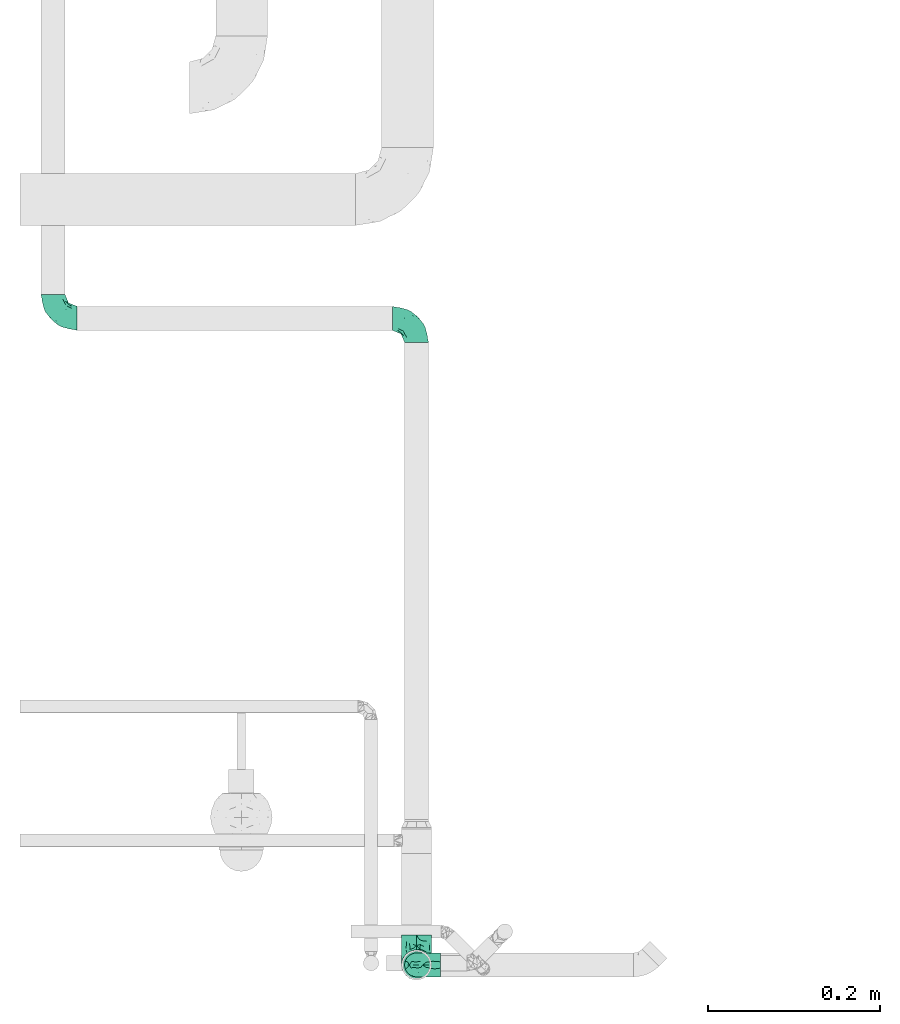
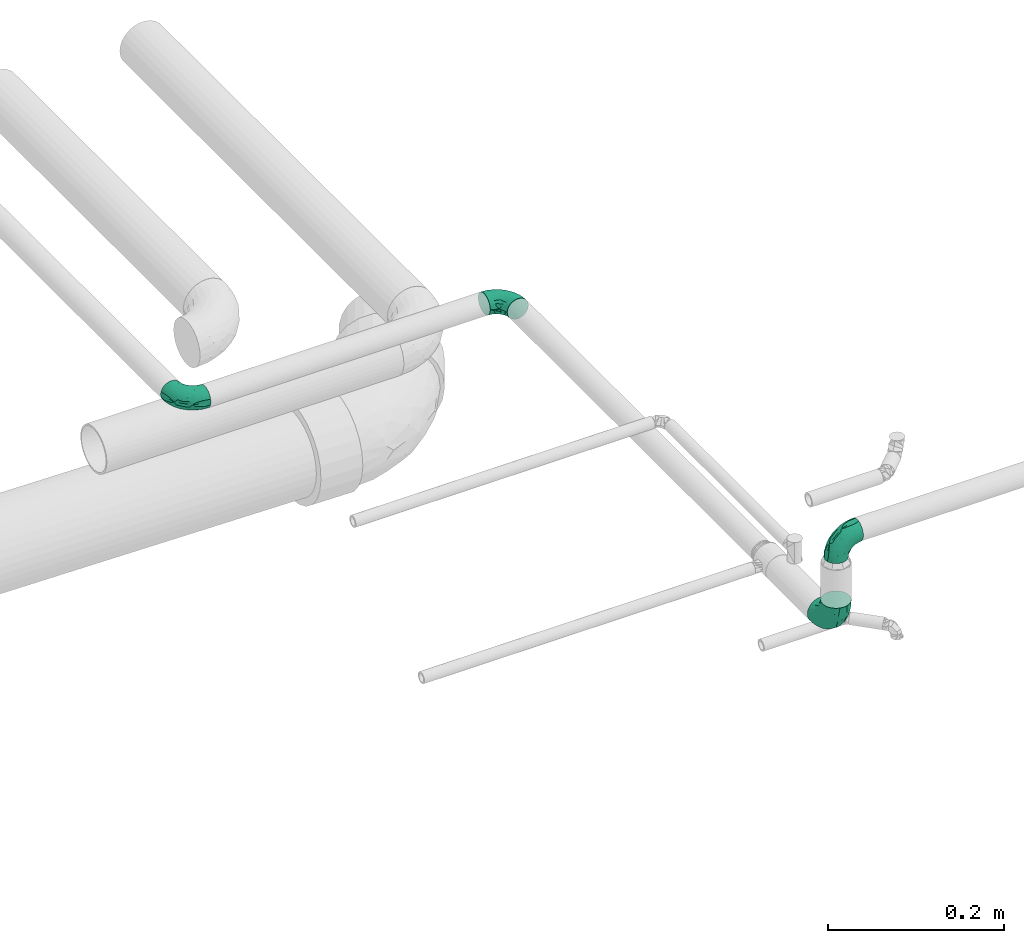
# One storey, part 14 of 35: 4 flow fittings.
"""IFC2X3 building model written with IfcOpenShell, lengths in millimetres."""

import ifcopenshell
import ifcopenshell.guid

model = None  # the IFC model being written
_history = None  # IfcOwnerHistory: only IFC2X3 demands one
_inside = {}  # id of a spatial element -> (the spatial element, [elements in it])
_under = {}  # id of a project, library or spatial element -> (it, [spatial elements below it])
_declared = {}  # id of a project -> (the project, [libraries it declares])
_typed = {}  # id of a type object -> (the type object, [elements of that type])
_made_of = {}  # id of a material, layer set ... -> (it, [elements and type objects made of it])


def new_model(schema):
    """Start an empty IFC model of exactly this schema.

    Asked for "IFC4X3", IfcOpenShell would pick the latest addendum, in which some entities
    have other attributes; the version numbers below select the first issue.
    IFC2X3 requires an IfcOwnerHistory on every rooted entity: one is made here for all.
    """
    global model, _history
    if schema == "IFC4X3":
        model = ifcopenshell.file(schema_version=(4, 3, 0, 0))
    else:
        model = ifcopenshell.file(schema=schema)
    _inside.clear()
    _under.clear()
    _declared.clear()
    _typed.clear()
    _made_of.clear()
    _history = None
    if model.schema == "IFC2X3":
        org = make("IfcOrganization", Name="unknown")
        user = make(
            "IfcPersonAndOrganization",
            ThePerson=make("IfcPerson", FamilyName="unknown"),
            TheOrganization=org,
        )
        app = make(
            "IfcApplication",
            ApplicationDeveloper=org,
            Version="unknown",
            ApplicationFullName="unknown",
            ApplicationIdentifier="unknown",
        )
        _history = make(
            "IfcOwnerHistory",
            OwningUser=user,
            OwningApplication=app,
            ChangeAction="ADDED",
            CreationDate=0,
        )
    return model


def make(cls, **values):
    """One entity of the class cls with the attributes given. An attribute that is None is left unset."""
    return model.create_entity(
        cls, **{name: value for name, value in values.items() if value is not None}
    )


def entity(cls, *values):
    """Any entity or typed value of the class cls, its attributes in the order of the schema. None: left unset."""
    e = model.create_entity(cls)
    for i, value in enumerate(values):
        if value is not None:
            e[i] = value
    return e


def rooted(cls, **values):
    """An entity with a GlobalId (a new one), such as an element, a storey or a relation."""
    return make(cls, GlobalId=ifcopenshell.guid.new(), OwnerHistory=_history, **values)


def si_unit(unit_type, name, prefix=None):
    """IfcSIUnit, for example si_unit("LENGTHUNIT", "METRE", prefix="MILLI")."""
    return make("IfcSIUnit", UnitType=unit_type, Prefix=prefix, Name=name)


def converted_unit(unit_type, name, factor, base, dimensions=None, offset=None):
    """IfcConversionBasedUnit, such as the inch: factor (a typed value) times the base unit."""
    return make(
        "IfcConversionBasedUnit"
        if offset is None
        else "IfcConversionBasedUnitWithOffset",
        ConversionOffset=offset,
        Dimensions=None
        if dimensions is None
        else entity("IfcDimensionalExponents", *dimensions),
        UnitType=unit_type,
        Name=name,
        ConversionFactor=make(
            "IfcMeasureWithUnit", ValueComponent=factor, UnitComponent=base
        ),
    )


def derived_unit(unit_type, elements):
    """IfcDerivedUnit: a product of units, each with its exponent."""
    return make(
        "IfcDerivedUnit",
        Elements=[
            make("IfcDerivedUnitElement", Unit=unit, Exponent=power)
            for unit, power in elements
        ],
        UnitType=unit_type,
    )


def assignment(units):
    """IfcUnitAssignment: the units of a project."""
    return None if units is None else make("IfcUnitAssignment", Units=units)


def point(xyz):
    """IfcCartesianPoint."""
    return None if xyz is None else make("IfcCartesianPoint", Coordinates=xyz)


def direction(xyz):
    """IfcDirection."""
    return None if xyz is None else make("IfcDirection", DirectionRatios=xyz)


def frame(location, z_axis=None, x_axis=None):
    """IfcAxis2Placement3D, a coordinate frame: its origin and axes. An axis left out is left unset."""
    return make(
        "IfcAxis2Placement3D",
        Location=point(location),
        Axis=direction(z_axis),
        RefDirection=direction(x_axis),
    )


def origin_with_axes():
    """The frame at (0, 0, 0) with the z axis (0, 0, 1) and the x axis (1, 0, 0) written out."""
    return frame((0.0, 0.0, 0.0), z_axis=(0.0, 0.0, 1.0), x_axis=(1.0, 0.0, 0.0))


def place(relative_to, where):
    """IfcLocalPlacement: puts the frame where relative to a parent placement (None: the world)."""
    return make(
        "IfcLocalPlacement", PlacementRelTo=relative_to, RelativePlacement=where
    )


def context(
    kind, dimensions, precision=None, world=None, true_north=None, identifier=None
):
    """IfcGeometricRepresentationContext, for example the 3D "Model" context."""
    return make(
        "IfcGeometricRepresentationContext",
        ContextIdentifier=identifier,
        ContextType=kind,
        CoordinateSpaceDimension=dimensions,
        Precision=precision,
        WorldCoordinateSystem=world,
        TrueNorth=true_north,
    )


def subcontext(parent, identifier, kind, view, scale=None):
    """IfcGeometricRepresentationSubContext, for example "Body" below "Model"."""
    return make(
        "IfcGeometricRepresentationSubContext",
        ContextIdentifier=identifier,
        ContextType=kind,
        ParentContext=parent,
        TargetScale=scale,
        TargetView=view,
    )


def project(units=None, contexts=None):
    """IfcProject with its units and contexts."""
    return rooted(
        "IfcProject",
        Name="project",
        RepresentationContexts=contexts,
        UnitsInContext=assignment(units),
    )


def spatial(cls, under=None, at=None, **own):
    """A site, building, storey or space (cls), placed at a placement, below another one or the project."""
    s = rooted(cls, ObjectPlacement=at, **own)
    if under is not None:
        _under.setdefault(under.id(), (under, []))[1].append(s)
    return s


def faces_of(points, faces, orient=None, outer=None):
    """IfcFace entities. A face is a list of loops; a loop is a list of indices into points, from 0.

    orient and outer hold one flag for each loop. By default every Orientation is true, the
    first loop of a face is its IfcFaceOuterBound and the others are IfcFaceBound.
    """
    made = []
    for i, loops in enumerate(faces):
        bounds = []
        for j, loop in enumerate(loops):
            is_outer = j == 0 if outer is None else outer[i][j]
            bounds.append(
                make(
                    "IfcFaceOuterBound" if is_outer else "IfcFaceBound",
                    Bound=make("IfcPolyLoop", Polygon=[points[k] for k in loop]),
                    Orientation=True if orient is None else orient[i][j],
                )
            )
        made.append(make("IfcFace", Bounds=bounds))
    return made


def open_shell(faces, orient=None, outer=None):
    """The faces of one IfcOpenShell. surface_model builds it on its shared points."""
    return ("IfcOpenShell", faces, orient, outer)


def surface_model(cls, points, shells):
    """IfcFaceBasedSurfaceModel or IfcShellBasedSurfaceModel (cls): surfaces that need not close."""
    shared = [point(p) for p in points]
    made = [make(c, CfsFaces=faces_of(shared, fs, o, b)) for c, fs, o, b in shells]
    if cls == "IfcFaceBasedSurfaceModel":
        return make(cls, FbsmFaces=made)
    return make(cls, SbsmBoundary=made)


def shape(context_of_items, identifier, shape_type, items):
    """IfcShapeRepresentation: the items that make up one representation, for example the "Body"."""
    return make(
        "IfcShapeRepresentation",
        ContextOfItems=context_of_items,
        RepresentationIdentifier=identifier,
        RepresentationType=shape_type,
        Items=items,
    )


def source(mapping_origin, context_of_items, identifier, shape_type, items):
    """IfcRepresentationMap: a shape defined once, which mapped items show again and again."""
    return make(
        "IfcRepresentationMap",
        MappingOrigin=mapping_origin,
        MappedRepresentation=shape(context_of_items, identifier, shape_type, items),
    )


def transform(
    local_origin,
    x_axis=None,
    y_axis=None,
    z_axis=None,
    scale=None,
    scale2=None,
    scale3=None,
    uniform=True,
):
    """IfcCartesianTransformationOperator3D, or its non-uniform kind. x_axis, y_axis, z_axis: its Axis1, 2, 3."""
    if uniform:
        return make(
            "IfcCartesianTransformationOperator3D",
            Axis1=direction(x_axis),
            Axis2=direction(y_axis),
            LocalOrigin=point(local_origin),
            Scale=scale,
            Axis3=direction(z_axis),
        )
    return make(
        "IfcCartesianTransformationOperator3DnonUniform",
        Axis1=direction(x_axis),
        Axis2=direction(y_axis),
        LocalOrigin=point(local_origin),
        Scale=scale,
        Axis3=direction(z_axis),
        Scale2=scale2,
        Scale3=scale3,
    )


def mapped(mapping_source, mapping_target):
    """IfcMappedItem: shows the shape of a source again, moved by a transform."""
    return make(
        "IfcMappedItem", MappingSource=mapping_source, MappingTarget=mapping_target
    )


def made_of(thing, what):
    """Note that an element or type object is made of a material, layer set ...; save() writes the relation."""
    if what is not None:
        _made_of.setdefault(what.id(), (what, []))[1].append(thing)
    return thing


def type_object(cls, material=None, **own):
    """A type object (cls), such as IfcWallType, which elements share."""
    return made_of(rooted(cls, **own), material)


def element(
    cls,
    number,
    at=None,
    inside=None,
    cuts=None,
    type_object=None,
    material=None,
    context=None,
    identifier="Body",
    shape_type=None,
    held_by="IfcProductDefinitionShape",
    body=None,
    shapes=None,
    **own,
):
    """One element of the class cls, such as IfcWall. Its Tag is "e" and its number.

    at: its placement. inside: the storey or other place that contains it. cuts: it is an
    opening in that element (IfcRelVoidsElement). A single representation is given by context,
    identifier, shape_type and body (its items); several are given by shapes. held_by: the class
    of the entity that holds the representations. save() writes the other relations.
    """
    e = rooted(cls, Tag="e%d" % number, ObjectPlacement=at, **own)
    if body is not None:
        shapes = [shape(context, identifier, shape_type, body)]
    if shapes is not None:
        e.Representation = make(held_by, Representations=shapes)
    if inside is not None:
        _inside.setdefault(inside.id(), (inside, []))[1].append(e)
    if cuts is not None:
        rooted(
            "IfcRelVoidsElement", RelatingBuildingElement=cuts, RelatedOpeningElement=e
        )
    if type_object is not None:
        _typed.setdefault(type_object.id(), (type_object, []))[1].append(e)
    return made_of(e, material)


def aggregate(whole, parts):
    """IfcRelAggregates: a whole, such as a stair, and the parts it consists of."""
    return rooted("IfcRelAggregates", RelatingObject=whole, RelatedObjects=parts)


def save(model, path):
    """Write the relations noted so far, then the file.

    IfcRelAggregates (storeys below a building ...), IfcRelContainedInSpatialStructure (elements
    in a storey), IfcRelDefinesByType, IfcRelAssociatesMaterial and IfcRelDeclares: one each for
    every whole, place, type object, material and project.
    """
    for whole, parts in _under.values():
        aggregate(whole, parts)
    for where, things in _inside.values():
        rooted(
            "IfcRelContainedInSpatialStructure",
            RelatedElements=things,
            RelatingStructure=where,
        )
    for kind, things in _typed.values():
        rooted("IfcRelDefinesByType", RelatedObjects=things, RelatingType=kind)
    for what, things in _made_of.values():
        rooted("IfcRelAssociatesMaterial", RelatedObjects=things, RelatingMaterial=what)
    for by, libraries in _declared.values():
        rooted("IfcRelDeclares", RelatingContext=by, RelatedDefinitions=libraries)
    model.write(path)


model = new_model("IFC2X3")

# Units and contexts
model_context = context("Model", 3, precision=0.01, world=frame((0.0, 4.29681676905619e-09, 0.0)), true_north=direction((4.01073788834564e-13, 1.0)))
plan_context = context("Plan", 3, precision=0.01, world=frame((0.0, 4.29681676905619e-09, 0.0)), true_north=direction((4.01073788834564e-13, 1.0)))
body_context = subcontext(model_context, "Body", "Model", "MODEL_VIEW")
ifc_project = project(units=[converted_unit("PLANEANGLEUNIT", "DEGREE", entity("IfcPositiveLengthMeasure", 0.0174532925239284), si_unit("PLANEANGLEUNIT", "RADIAN"), dimensions=[0, 0, 0, 0, 0, 0, 0]), si_unit("AREAUNIT", "SQUARE_METRE"), si_unit("LENGTHUNIT", "METRE", prefix="MILLI"), si_unit("MASSUNIT", "GRAM", prefix="KILO"), si_unit("POWERUNIT", "WATT"), si_unit("PRESSUREUNIT", "PASCAL"), si_unit("FORCEUNIT", "NEWTON", prefix="KILO"), si_unit("ELECTRICVOLTAGEUNIT", "VOLT"), si_unit("ELECTRICCURRENTUNIT", "AMPERE"), si_unit("THERMODYNAMICTEMPERATUREUNIT", "DEGREE_CELSIUS"), si_unit("TIMEUNIT", "SECOND"), si_unit("VOLUMEUNIT", "CUBIC_METRE"), derived_unit("LINEARVELOCITYUNIT", [(si_unit("LENGTHUNIT", "METRE"), 1), (si_unit("TIMEUNIT", "SECOND"), -1)]), derived_unit("VOLUMETRICFLOWRATEUNIT", [(si_unit("VOLUMEUNIT", "CUBIC_METRE"), 1), (si_unit("TIMEUNIT", "SECOND"), -1)]), derived_unit("THERMALTRANSMITTANCEUNIT", [(si_unit("POWERUNIT", "WATT"), 1), (si_unit("THERMODYNAMICTEMPERATUREUNIT", "KELVIN"), -1), (si_unit("AREAUNIT", "SQUARE_METRE"), -1)]), derived_unit("SOUNDPRESSUREUNIT", [(si_unit("PRESSUREUNIT", "PASCAL"), 1)])], contexts=[model_context, plan_context])

# Site, building, storey
site_placement = place(None, frame((0.0, -4.29681676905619e-09, 0.0), z_axis=(0.0, 0.0, 1.0), x_axis=(1.0, 0.0, 0.0)))
site = spatial("IfcSite", under=ifc_project, at=site_placement, Name="ENGM", CompositionType="ELEMENT")
building_placement = place(site_placement, frame((0.0, 4.29681676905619e-09, 0.0), z_axis=(0.0, 0.0, 1.0), x_axis=(1.0, 0.0, 0.0)))
building = spatial("IfcBuilding", under=site, at=building_placement, Name="TH", CompositionType="ELEMENT")
storey_placement = place(building_placement, frame((0.0, 0.0, 210200.0), z_axis=(0.0, 0.0, 1.0), x_axis=(1.0, 0.0, 0.0)))
storey = spatial("IfcBuildingStorey", under=building, at=storey_placement, Name="Nivå F - 0,7 m", CompositionType="ELEMENT", Elevation=210200.0)

# Flow fittings
pipe_fitting_type = type_object("IfcPipeFittingType", Name="magi_pipe_cu_elbow_short_001", PredefinedType="BEND")
shared_shape_1 = source(origin_with_axes(), body_context, "Body", "SurfaceModel", [
    surface_model("IfcShellBasedSurfaceModel", [(-35.0, 8.75, -15.15544), (-35.0, 4.52933, -16.9037), (-35.0, 0.0, -17.5), (-35.0, 12.37437, -12.37437), (-35.0, 15.15544, -8.75), (-35.0, -8.75, -15.15544), (-35.0, -8.75, 15.15544), (-35.0, -12.37437, -12.37437), (-35.0, -4.52933, -16.9037), (-35.0, -16.9037, -4.52933), (-35.0, -17.5, 0.0), (-35.0, -15.15544, -8.75), (-35.0, -16.9037, 4.52933), (-35.0, 17.5, 0.0), (-35.0, 16.9037, -4.52933), (-35.0, 12.37437, 12.37437), (-35.0, 16.9037, 4.52933), (-35.0, 15.15544, 8.75), (-35.0, 4.52933, 16.9037), (-35.0, 8.75, 15.15544), (-35.0, 0.0, 17.5), (-35.0, -15.15544, 8.75), (-35.0, -12.37437, 12.37437), (-35.0, -4.52933, 16.9037), (0.0, 35.0, -17.5), (-4.52933, 35.0, -16.9037), (-8.75, 35.0, -15.15544), (-12.37437, 35.0, -12.37437), (8.75, 35.0, -15.15544), (16.9037, 35.0, 4.52933), (-15.15544, 35.0, -8.75), (8.75, 35.0, 15.15544), (12.37437, 35.0, -12.37437), (4.52933, 35.0, -16.9037), (15.15544, 35.0, -8.75), (17.5, 35.0, 0.0), (16.9037, 35.0, -4.52933), (-16.9037, 35.0, -4.52933), (-17.5, 35.0, 0.0), (-16.9037, 35.0, 4.52933), (-12.37437, 35.0, 12.37437), (-15.15544, 35.0, 8.75), (-8.75, 35.0, 15.15544), (-4.52933, 35.0, 16.9037), (0.0, 35.0, 17.5), (12.37437, 35.0, 12.37437), (15.15544, 35.0, 8.75), (4.52933, 35.0, 16.9037), (-25.67415, -13.59559, 9.82403), (-22.98078, -10.09634, 13.04024), (-24.95456, -15.50184, 0.0), (-15.46973, -11.14466, 8.83253), (-23.25837, -15.27419, 5.4579), (15.27419, 23.25837, 5.4579), (12.34847, 13.7089, 4.48617), (13.50368, 14.90912, 0.0), (7.98773, 14.17445, 11.96929), (10.09634, 22.98078, 13.04024), (4.24731, 13.52067, 14.53865), (-25.72197, -6.61751, 15.74462), (-26.7344, -2.31827, 17.20071), (-24.50568, 2.68251, 17.47017), (-27.44516, 14.56448, 11.47495), (-25.07215, 18.29076, 8.00088), (-30.6355, 16.43299, 7.25145), (-6.39301, -7.81339, 0.0), (-13.7089, -12.34847, 4.48617), (-14.90912, -13.50368, 0.0), (-18.44681, 19.54381, 12.39604), (-6.53243, 30.18634, 16.39188), (-2.39845, 26.17753, 17.45702), (-30.27731, 10.5977, 14.25942), (-1.50603, -2.9583, 7.8851), (-0.29331, 0.3611, 10.4535), (-5.9488, -4.19077, 10.78186), (-4.56799, 11.72104, 17.18321), (-8.69539, 3.21041, 16.34147), (-1.78778, 9.45477, 16.08229), (-18.0168, 25.63227, 7.92136), (-27.12223, 20.76308, 0.0), (-29.14442, 17.91065, 4.40976), (-26.97638, 6.86342, 16.53125), (-6.08206, 17.20948, 17.4686), (-12.9625, 12.9625, 17.07479), (-10.42039, 7.64736, 17.40986), (-3.126, 3.126, 14.30773), (-13.52067, -4.24732, 14.53865), (-17.42289, -0.15705, 16.96193), (11.14466, 15.46973, 8.83253), (13.59559, 25.67415, 9.82403), (6.61751, 25.72197, 15.74462), (2.31827, 26.7344, 17.20071), (-14.17445, -7.98773, 11.96929), (15.50184, 24.95456, 0.0), (-7.56843, 23.71293, 16.6663), (-11.05874, 27.1034, 14.50532), (-13.23678, 18.91785, 15.59535), (-14.3786, 23.24943, 13.39158), (-18.69025, 15.70341, 14.54296), (-23.93728, 20.79474, 4.17293), (-22.62563, 22.62563, 0.0), (-19.21704, 26.38748, 4.0702), (-14.44673, 27.90403, 11.42459), (-19.23031, 7.49607, 17.18683), (-17.1721, 4.28825, 17.49253), (-18.60453, 11.87421, 16.18647), (-10.19404, 18.16587, 16.76415), (0.15705, 17.42289, 16.96193), (-24.0983, 11.8793, 14.7368), (3.98505, 6.07834, 11.08478), (-8.30597, -7.81197, 8.21438), (1.03907, -2.27302, 4.73653), (5.31423, 3.11691, 6.11155), (5.42771, 1.81659, 2.62257), (9.0136, 7.29975, 4.13354), (-20.76308, 27.12223, 0.0), (8.78644, 9.07824, 7.34478), (-4.71659, -6.95924, 5.08102), (2.12311, -2.12311, 0.0), (7.81339, 6.39301, 0.0), (-27.70384, 2.21276, -17.44304), (-15.139, 25.6163, -11.67774), (-29.4629, -13.93098, -10.16755), (-26.92794, 6.87113, -16.53331), (-23.88622, 20.75741, -4.41333), (-14.29664, -4.41648, -14.68212), (-15.19601, -0.21829, -16.64455), (-7.03127, -0.29284, -14.33943), (-25.40695, 11.47437, -14.63597), (-27.66913, 14.50571, -11.45035), (10.45516, 25.31793, -13.21276), (6.03943, 22.16202, -15.56409), (6.89903, 29.55572, -15.927), (-21.10543, 16.03689, -13.19848), (12.97763, 21.9883, -9.47862), (12.99032, 16.23155, -5.74578), (10.09843, 13.35052, -8.97101), (-16.20755, 20.33949, -13.47528), (-12.46256, 21.39865, -15.19771), (-16.17359, 16.17359, -15.36562), (-26.47317, -15.80391, 0.0), (-25.52983, -15.66647, -5.70515), (13.93098, 29.4629, -10.16755), (15.66647, 25.52983, -5.70515), (-7.61553, -8.60518, -5.85642), (-16.23155, -12.99032, -5.74578), (-25.31793, -10.45516, -13.21276), (0.17109, 0.42769, -10.06227), (-5.90918, -5.51991, -9.20861), (-5.32113, -2.45619, -11.9452), (-21.9883, -12.97763, -9.47862), (0.73672, 8.22048, -14.5942), (0.21829, 15.19601, -16.64455), (3.61692, 14.93995, -15.28797), (-25.7831, -2.20653, -17.18003), (-29.55572, -6.89903, -15.927), (-19.09867, -7.99059, -13.74068), (2.20653, 25.7831, -17.18003), (-29.66035, 18.06344, -2.9959), (1.76053, -1.33292, -5.27593), (-17.15897, 27.77164, -7.62747), (-18.31862, 28.40001, -3.89769), (-13.35052, -10.09843, -8.97101), (-6.17792, 6.17792, -16.5247), (-21.26622, 20.80683, -8.58416), (-2.21276, 27.70384, -17.44304), (-7.14365, 25.46075, -16.59474), (-10.98399, 27.47352, -14.47678), (-22.16202, -6.03943, -15.56409), (3.03601, 6.10561, -11.96956), (7.13869, 13.06641, -12.24206), (5.77868, 6.1646, -9.10678), (-4.13696, 19.27897, -17.49622), (8.60518, 7.61553, -5.85642), (-9.46274, 10.21159, -17.49007), (-10.35485, 16.58999, -16.97913), (-17.27815, 10.12754, -16.92218), (-27.97841, 17.20134, -7.38292), (15.80391, 26.47317, 0.0), (-19.27898, 4.13695, -17.49622), (-20.06282, 28.81281, 0.0), (-13.06641, -7.13869, -12.24206), (-19.51618, 19.81971, -11.35476)], [open_shell([[[0, 1, 2]], [[3, 0, 2]], [[4, 3, 5]], [[2, 5, 3]], [[6, 4, 5]], [[7, 6, 5]], [[2, 8, 5]], [[9, 10, 11]], [[11, 10, 12]], [[11, 12, 7]], [[13, 14, 4]], [[4, 15, 16]], [[17, 16, 15]], [[18, 19, 15]], [[4, 6, 15]], [[15, 20, 18]], [[21, 22, 12]], [[6, 12, 22]], [[23, 20, 6]], [[6, 7, 12]], [[6, 20, 15]], [[13, 4, 16]], [[24, 25, 26]], [[24, 26, 27]], [[28, 24, 29]], [[30, 24, 27]], [[31, 24, 30]], [[28, 29, 32]], [[28, 33, 24]], [[34, 35, 36]], [[29, 35, 34]], [[32, 29, 34]], [[30, 37, 38]], [[30, 39, 40]], [[40, 39, 41]], [[40, 42, 43]], [[40, 31, 30]], [[44, 40, 43]], [[29, 45, 46]], [[45, 29, 31]], [[31, 44, 47]], [[29, 24, 31]], [[40, 44, 31]], [[38, 39, 30]], [[22, 48, 49]], [[12, 10, 50]], [[51, 48, 52]], [[53, 54, 55]], [[48, 22, 21]], [[12, 52, 21]], [[56, 57, 58]], [[49, 6, 22]], [[49, 59, 6]], [[20, 60, 61]], [[62, 63, 64]], [[65, 66, 67]], [[57, 45, 31]], [[62, 68, 63]], [[43, 69, 70]], [[19, 71, 15]], [[23, 60, 20]], [[72, 73, 74]], [[75, 76, 77]], [[15, 62, 17]], [[41, 39, 78]], [[79, 13, 80]], [[64, 16, 17]], [[20, 61, 18]], [[18, 81, 19]], [[82, 83, 84]], [[74, 85, 86]], [[59, 86, 87]], [[88, 89, 57]], [[90, 31, 47]], [[46, 53, 29]], [[47, 44, 91]], [[54, 53, 88]], [[46, 89, 53]], [[92, 86, 49]], [[89, 46, 45]], [[6, 59, 23]], [[53, 55, 93]], [[93, 29, 53]], [[66, 52, 67]], [[94, 82, 70]], [[95, 96, 94]], [[97, 98, 96]], [[79, 99, 100]], [[42, 40, 95]], [[101, 100, 99]], [[68, 78, 63]], [[43, 42, 69]], [[13, 16, 80]], [[95, 94, 69]], [[78, 101, 99]], [[40, 102, 95]], [[70, 44, 43]], [[97, 95, 102]], [[12, 50, 52]], [[90, 57, 31]], [[57, 90, 58]], [[81, 18, 61]], [[103, 104, 84]], [[105, 81, 103]], [[40, 41, 102]], [[94, 96, 106]], [[94, 106, 82]], [[91, 70, 107]], [[71, 62, 15]], [[62, 108, 98]], [[86, 59, 49]], [[67, 52, 50]], [[60, 59, 87]], [[92, 49, 51]], [[86, 85, 76]], [[91, 90, 47]], [[35, 29, 93]], [[107, 77, 58]], [[107, 58, 90]], [[58, 85, 109]], [[110, 74, 92]], [[72, 74, 110]], [[66, 51, 52]], [[72, 111, 112]], [[113, 114, 112]], [[56, 88, 57]], [[52, 48, 21]], [[49, 48, 51]], [[57, 89, 45]], [[53, 89, 88]], [[103, 81, 61]], [[71, 81, 108]], [[16, 64, 80]], [[63, 78, 99]], [[38, 115, 101]], [[101, 115, 100]], [[41, 78, 102]], [[68, 102, 78]], [[97, 96, 95]], [[105, 98, 108]], [[103, 84, 83]], [[107, 70, 82]], [[76, 84, 87]], [[82, 84, 75]], [[70, 91, 44]], [[90, 91, 107]], [[59, 60, 23]], [[61, 60, 87]], [[73, 85, 74]], [[109, 112, 116]], [[103, 61, 104]], [[105, 103, 83]], [[96, 105, 83]], [[81, 105, 108]], [[96, 98, 105]], [[62, 98, 68]], [[61, 87, 104]], [[87, 84, 104]], [[86, 76, 87]], [[77, 76, 85]], [[58, 77, 85]], [[75, 77, 107]], [[82, 75, 107]], [[76, 75, 84]], [[81, 71, 19]], [[62, 71, 108]], [[95, 69, 42]], [[70, 69, 94]], [[62, 64, 17]], [[80, 63, 99]], [[63, 80, 64]], [[80, 99, 79]], [[66, 65, 117]], [[110, 66, 117]], [[112, 114, 116]], [[118, 117, 65]], [[110, 92, 51]], [[112, 111, 113]], [[119, 55, 54]], [[74, 86, 92]], [[58, 109, 56]], [[116, 56, 109]], [[66, 110, 51]], [[72, 110, 117]], [[111, 72, 117]], [[73, 112, 109]], [[117, 118, 111]], [[113, 111, 118]], [[118, 119, 113]], [[114, 119, 54]], [[119, 114, 113]], [[116, 54, 88]], [[54, 116, 114]], [[116, 88, 56]], [[112, 73, 72]], [[85, 73, 109]], [[78, 39, 101]], [[38, 101, 39]], [[102, 68, 97]], [[97, 68, 98]], [[96, 83, 106]], [[82, 106, 83]], [[1, 120, 2]], [[30, 27, 121]], [[7, 122, 11]], [[0, 123, 1]], [[100, 124, 79]], [[125, 126, 127]], [[128, 3, 129]], [[130, 131, 132]], [[128, 129, 133]], [[134, 135, 136]], [[137, 138, 139]], [[128, 0, 3]], [[67, 140, 141]], [[134, 142, 143]], [[141, 9, 11]], [[144, 65, 145]], [[146, 7, 5]], [[147, 148, 149]], [[145, 141, 150]], [[151, 152, 153]], [[154, 8, 2]], [[5, 155, 146]], [[150, 146, 156]], [[155, 5, 8]], [[143, 135, 134]], [[33, 157, 24]], [[13, 79, 158]], [[148, 159, 144]], [[160, 161, 37]], [[145, 162, 144]], [[163, 152, 151]], [[37, 30, 160]], [[121, 164, 160]], [[28, 32, 130]], [[24, 165, 25]], [[25, 165, 166]], [[142, 32, 34]], [[27, 26, 167]], [[124, 161, 164]], [[157, 33, 132]], [[155, 154, 168]], [[123, 0, 128]], [[169, 170, 171]], [[172, 157, 152]], [[25, 166, 26]], [[132, 33, 28]], [[142, 130, 32]], [[168, 154, 126]], [[136, 135, 173]], [[133, 137, 139]], [[3, 4, 129]], [[170, 131, 130]], [[34, 36, 143]], [[172, 174, 175]], [[176, 123, 128]], [[158, 177, 14]], [[135, 55, 119]], [[167, 26, 166]], [[175, 166, 172]], [[137, 167, 138]], [[122, 141, 11]], [[140, 10, 9]], [[36, 35, 178]], [[170, 130, 134]], [[152, 157, 131]], [[165, 157, 172]], [[153, 170, 151]], [[152, 163, 174]], [[168, 125, 156]], [[122, 146, 150]], [[120, 154, 2]], [[179, 174, 126]], [[179, 126, 154]], [[126, 163, 127]], [[162, 145, 150]], [[140, 9, 141]], [[36, 178, 143]], [[55, 143, 178]], [[177, 129, 4]], [[128, 133, 139]], [[176, 128, 139]], [[120, 123, 179]], [[121, 160, 30]], [[161, 100, 180]], [[166, 175, 138]], [[121, 27, 167]], [[161, 38, 37]], [[79, 124, 158]], [[124, 164, 177]], [[161, 124, 100]], [[136, 171, 170]], [[127, 163, 151]], [[147, 171, 159]], [[148, 144, 162]], [[127, 151, 169]], [[127, 181, 125]], [[129, 177, 164]], [[4, 14, 177]], [[159, 65, 144]], [[67, 141, 145]], [[143, 55, 135]], [[135, 119, 173]], [[123, 120, 1]], [[154, 120, 179]], [[157, 165, 24]], [[166, 165, 172]], [[172, 152, 174]], [[176, 139, 175]], [[126, 174, 163]], [[176, 174, 179]], [[174, 176, 175]], [[123, 176, 179]], [[150, 181, 162]], [[127, 149, 181]], [[181, 148, 162]], [[159, 148, 147]], [[171, 136, 173]], [[170, 134, 136]], [[159, 171, 173]], [[171, 147, 169]], [[169, 147, 149]], [[151, 170, 169]], [[164, 182, 129]], [[182, 121, 137]], [[181, 149, 148]], [[169, 149, 127]], [[182, 137, 133]], [[167, 137, 121]], [[166, 138, 167]], [[175, 139, 138]], [[129, 182, 133]], [[121, 182, 164]], [[161, 160, 164]], [[38, 161, 180]], [[177, 158, 124]], [[13, 158, 14]], [[130, 132, 28]], [[157, 132, 131]], [[143, 142, 34]], [[130, 142, 134]], [[154, 155, 8]], [[146, 155, 168]], [[146, 122, 7]], [[141, 122, 150]], [[152, 131, 153]], [[159, 119, 118]], [[67, 145, 65]], [[170, 153, 131]], [[119, 159, 173]], [[159, 118, 65]], [[156, 125, 181]], [[126, 125, 168]], [[150, 156, 181]], [[168, 156, 146]]])]),
])
flow_fitting_placement = place(storey_placement, frame((895573.45, 478547.05558, 3055.47382000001), z_axis=(-1.0, 0.0, 0.0), x_axis=(0.0, -1.0, 0.0)))
element("IfcFlowFitting", 1, at=flow_fitting_placement, inside=storey, type_object=pipe_fitting_type, Name="magi_pipe_cu_elbow_short_001", context=body_context, shape_type="MappedRepresentation", body=[
    mapped(shared_shape_1, transform((0.0, 0.0, 0.0), scale=1.0)),
])
shared_shape_2 = source(origin_with_axes(), body_context, "Body", "SurfaceModel", [
    surface_model("IfcShellBasedSurfaceModel", [(-28.0, 3.62347, -13.52296), (-28.0, 0.0, -14.0), (-28.0, 13.52296, -3.62347), (-28.0, 7.0, -12.12436), (-28.0, 9.89949, -9.89949), (-28.0, 12.12436, -7.0), (-28.0, -9.89949, 9.89949), (-28.0, -13.52296, -3.62347), (-28.0, -7.0, -12.12436), (-28.0, -9.89949, -9.89949), (-28.0, -3.62347, -13.52296), (-28.0, -12.12436, -7.0), (-28.0, -14.0, 0.0), (-28.0, -13.52296, 3.62347), (-28.0, 13.52296, 3.62347), (-28.0, 14.0, 0.0), (-28.0, 3.62347, 13.52296), (-28.0, 12.12436, 7.0), (-28.0, 9.89949, 9.89949), (-28.0, 7.0, 12.12436), (-28.0, 0.0, 14.0), (-28.0, -12.12436, 7.0), (-28.0, -3.62347, 13.52296), (-28.0, -7.0, 12.12436), (-13.52296, 28.0, -3.62347), (0.0, 28.0, -14.0), (-3.62347, 28.0, -13.52296), (-9.89949, 28.0, -9.89949), (-7.0, 28.0, -12.12436), (-12.12436, 28.0, -7.0), (13.52296, 28.0, -3.62347), (-9.89949, 28.0, 9.89949), (3.62347, 28.0, -13.52296), (9.89949, 28.0, -9.89949), (7.0, 28.0, -12.12436), (12.12436, 28.0, -7.0), (13.52296, 28.0, 3.62347), (14.0, 28.0, 0.0), (-13.52296, 28.0, 3.62347), (-12.12436, 28.0, 7.0), (-7.0, 28.0, 12.12436), (-3.62347, 28.0, 13.52296), (9.89949, 28.0, 9.89949), (0.0, 28.0, 14.0), (12.12436, 28.0, 7.0), (7.0, 28.0, 12.12436), (3.62347, 28.0, 13.52296), (-14.0, 28.0, 0.0), (-18.74729, -12.24672, 4.38175), (-20.4978, -10.87112, 7.8554), (-14.63098, -10.41778, 0.0), (-11.36869, -10.18884, 3.09687), (5.89274, 4.32805, 4.24468), (3.06694, 4.04075, 8.35629), (-0.17293, -0.734, 7.21134), (-12.21635, -8.85831, 7.04954), (-3.77138, -5.46958, 4.31404), (-21.31549, -12.20889, 0.0), (6.34939, 11.25924, 9.57712), (8.06481, 18.3168, 10.42711), (3.37486, 10.81192, 11.64293), (-18.31681, -8.06481, 10.42711), (-20.56266, -5.29223, 12.59496), (-21.38752, -1.85462, 13.76057), (-19.60454, 2.14601, 13.97614), (-10.81192, -3.37486, 11.64293), (-13.93831, -0.12564, 13.56955), (-21.5811, 5.49074, 13.225), (-21.95612, 11.65158, 9.17996), (-20.05772, 14.63261, 6.40071), (-24.5084, 13.14639, 5.80116), (-14.41344, 20.50581, 6.33709), (-4.86565, 13.76759, 13.97488), (-10.37, 10.37, 13.65983), (-8.33631, 6.11788, 13.92788), (-14.75744, 15.63504, 9.91683), (-24.22185, 8.47816, 11.40754), (-3.65439, 9.37683, 13.74657), (-6.95631, 2.56833, 13.07318), (-1.43023, 7.56381, 12.86583), (-23.31553, 14.32852, 3.52781), (-21.69779, 16.61046, 0.0), (-5.22595, 24.14907, 13.1135), (-1.91876, 20.94202, 13.96561), (5.29223, 20.56266, 12.59496), (-4.80832, -3.33944, 8.67628), (-2.5008, 2.5008, 11.44619), (1.85462, 21.38752, 13.76057), (10.87112, 20.4978, 7.8554), (8.85831, 12.21635, 7.04954), (12.24672, 18.74729, 4.38175), (-11.25924, -6.34939, 9.57712), (-15.37363, 21.10999, 3.25616), (-19.14983, 16.6358, 3.33834), (10.18884, 11.36869, 3.09687), (10.41778, 14.63098, 0.0), (12.20889, 21.31549, 0.0), (-18.10051, 18.10051, 0.0), (8.37307, 7.0, 0.0), (-11.50288, 18.59955, 10.71326), (-8.84699, 21.68272, 11.60426), (-11.55739, 22.32322, 9.13967), (-10.58943, 15.13428, 12.47628), (-6.05474, 18.97034, 13.33304), (-14.9522, 12.56273, 11.63436), (-7.0, -8.37307, 0.0), (-15.38425, 5.99686, 13.74946), (-13.73768, 3.4306, 13.99403), (-14.88363, 9.49937, 12.94918), (-8.15523, 14.5327, 13.41132), (0.12564, 13.93831, 13.56955), (-19.27864, 9.50344, 11.78944), (-1.06605, 0.88351, 9.56863), (-3.83005, -4.31684, 6.58349), (-3.15673, -4.5298, 0.0), (1.6378, -1.17307, 3.37596), (-16.61046, 21.69779, 0.0), (4.5298, 3.15673, 0.0), (0.68653, -0.68653, 0.0), (-22.16307, 1.77021, -13.95443), (-12.1112, 20.49304, -9.34219), (-20.84882, -12.5942, -4.60988), (-21.54235, 5.49691, -13.22664), (-19.10898, 16.60593, -3.53067), (-11.43732, -3.53319, -11.74569), (-12.15681, -0.17464, -13.31564), (-5.62502, -0.23427, -11.47155), (-20.32556, 9.17949, -11.70878), (-22.13531, 11.60457, -9.16028), (8.41708, 20.6911, -10.6019), (-16.88435, 12.82951, -10.55878), (-11.13704, -10.24959, -2.34743), (-4.84185, -6.54661, -3.36137), (-12.96604, 16.27159, -10.78023), (-9.97005, 17.11892, -12.15817), (-12.93887, 12.93887, -12.29249), (-1.2334, -2.64201, -5.92074), (1.22973, 2.47088, -8.8979), (5.16596, 4.11707, -5.50974), (-13.82252, 8.10203, -13.53774), (-19.77353, -10.77046, -7.78839), (-20.6911, -8.41708, -10.6019), (-5.71492, 20.3686, -13.27579), (12.5942, 20.84882, -4.60988), (-23.64458, -5.51923, -12.7416), (-12.09227, -8.27186, -7.82819), (-10.45313, -5.71095, -9.79365), (0.58937, 6.57638, -11.67536), (0.17464, 12.15681, -13.31564), (2.89353, 11.95196, -12.23037), (-23.72828, 14.45075, -2.39672), (-13.72718, 22.21732, -6.10198), (-14.65489, 22.72001, -3.11815), (10.77046, 19.77353, -7.78839), (-4.94234, 4.94234, -13.21976), (-17.01297, 16.64546, -6.86733), (-1.77021, 22.16307, -13.95443), (-8.78719, 21.97882, -11.58143), (1.76523, 20.62648, -13.74402), (5.51923, 23.64458, -12.7416), (-20.62648, -1.76523, -13.74402), (-17.72962, -4.83155, -12.45127), (-3.30956, 15.42318, -13.99698), (-7.57019, 8.16927, -13.99205), (-8.28388, 13.27199, -13.5833), (-6.87455, -6.54348, -6.32219), (9.88737, 10.40056, -2.49707), (6.89392, 5.1145, -2.73992), (0.30381, -2.5875, -3.00478), (-22.38273, 13.76108, -5.90633), (9.77824, 12.19087, -5.31295), (8.70689, 13.51955, -8.04189), (5.71095, 10.45313, -9.79365), (4.83155, 17.72962, -12.45127), (-4.06757, -2.72494, -8.72853), (6.23857, 7.82545, -7.6266), (-15.42318, 3.30956, -13.99698), (-16.05025, 23.05025, 0.0), (-12.19087, -9.77824, -5.31295), (3.79914, 1.24839, -3.50098), (-15.61294, 15.85577, -9.08381)], [open_shell([[[0, 1, 2]], [[3, 0, 4]], [[2, 5, 4]], [[0, 2, 4]], [[6, 1, 7]], [[8, 9, 10]], [[9, 1, 10]], [[11, 7, 9]], [[9, 7, 1]], [[12, 13, 7]], [[2, 1, 6]], [[14, 15, 16]], [[17, 14, 18]], [[16, 19, 18]], [[14, 16, 18]], [[20, 16, 15]], [[21, 6, 13]], [[6, 7, 13]], [[22, 20, 23]], [[6, 23, 20]], [[2, 6, 20]], [[15, 2, 20]], [[24, 25, 26]], [[27, 26, 28]], [[27, 29, 24]], [[27, 24, 26]], [[30, 25, 31]], [[32, 33, 34]], [[32, 25, 33]], [[33, 30, 35]], [[25, 30, 33]], [[30, 36, 37]], [[31, 25, 24]], [[24, 38, 31]], [[31, 38, 39]], [[31, 40, 41]], [[31, 42, 30]], [[41, 43, 31]], [[36, 42, 44]], [[30, 42, 36]], [[45, 43, 46]], [[43, 45, 42]], [[31, 43, 42]], [[24, 47, 38]], [[48, 49, 21]], [[48, 50, 51]], [[52, 53, 54]], [[55, 51, 56]], [[49, 6, 21]], [[57, 48, 13]], [[58, 59, 60]], [[61, 23, 6]], [[61, 62, 23]], [[20, 63, 64]], [[62, 65, 66]], [[59, 42, 45]], [[20, 22, 63]], [[67, 19, 16]], [[68, 69, 70]], [[39, 38, 71]], [[72, 73, 74]], [[69, 68, 75]], [[20, 64, 16]], [[19, 76, 18]], [[17, 18, 68]], [[77, 78, 79]], [[80, 81, 15]], [[41, 82, 83]], [[45, 84, 59]], [[85, 86, 65]], [[46, 43, 87]], [[88, 89, 90]], [[91, 65, 61]], [[43, 41, 83]], [[71, 92, 93]], [[90, 94, 95]], [[84, 45, 46]], [[88, 90, 44]], [[59, 84, 60]], [[36, 44, 90]], [[75, 71, 69]], [[23, 62, 22]], [[90, 96, 36]], [[97, 81, 93]], [[94, 98, 95]], [[92, 97, 93]], [[50, 48, 57]], [[70, 14, 17]], [[99, 100, 101]], [[31, 101, 100]], [[40, 31, 100]], [[102, 103, 100]], [[103, 72, 83]], [[82, 100, 103]], [[82, 41, 40]], [[99, 104, 102]], [[15, 14, 80]], [[67, 16, 64]], [[51, 50, 105]], [[48, 21, 13]], [[49, 55, 61]], [[44, 42, 88]], [[89, 52, 94]], [[106, 107, 74]], [[108, 67, 106]], [[31, 39, 101]], [[109, 102, 73]], [[103, 109, 72]], [[87, 83, 110]], [[76, 68, 18]], [[68, 111, 104]], [[65, 62, 61]], [[63, 62, 66]], [[91, 61, 55]], [[65, 86, 78]], [[87, 84, 46]], [[110, 79, 60]], [[110, 60, 84]], [[86, 112, 60]], [[55, 49, 48]], [[61, 6, 49]], [[42, 59, 88]], [[89, 88, 59]], [[106, 67, 64]], [[76, 67, 111]], [[53, 52, 89]], [[112, 86, 85]], [[56, 113, 55]], [[112, 54, 53]], [[58, 89, 59]], [[56, 51, 105]], [[114, 115, 56]], [[14, 70, 80]], [[69, 71, 93]], [[47, 116, 92]], [[92, 116, 97]], [[39, 71, 101]], [[75, 101, 71]], [[99, 102, 100]], [[108, 104, 111]], [[106, 74, 73]], [[110, 83, 72]], [[78, 74, 66]], [[72, 74, 77]], [[83, 87, 43]], [[84, 87, 110]], [[62, 63, 22]], [[64, 63, 66]], [[13, 12, 57]], [[96, 90, 95]], [[96, 37, 36]], [[115, 117, 52]], [[56, 105, 114]], [[55, 48, 51]], [[89, 94, 90]], [[52, 98, 94]], [[106, 64, 107]], [[108, 106, 73]], [[102, 108, 73]], [[67, 108, 111]], [[102, 104, 108]], [[68, 104, 75]], [[64, 66, 107]], [[66, 74, 107]], [[65, 78, 66]], [[79, 78, 86]], [[60, 79, 86]], [[77, 79, 110]], [[72, 77, 110]], [[78, 77, 74]], [[67, 76, 19]], [[68, 76, 111]], [[100, 82, 40]], [[83, 82, 103]], [[68, 70, 17]], [[80, 69, 93]], [[69, 80, 70]], [[80, 93, 81]], [[55, 85, 91]], [[85, 65, 91]], [[60, 53, 58]], [[53, 89, 58]], [[54, 112, 85]], [[60, 112, 53]], [[85, 113, 54]], [[113, 115, 54]], [[55, 113, 85]], [[115, 113, 56]], [[71, 38, 92]], [[115, 114, 118]], [[47, 92, 38]], [[101, 75, 99]], [[99, 75, 104]], [[72, 109, 73]], [[103, 102, 109]], [[54, 115, 52]], [[117, 115, 118]], [[117, 98, 52]], [[0, 119, 1]], [[29, 27, 120]], [[121, 57, 7]], [[3, 122, 0]], [[97, 123, 81]], [[124, 125, 126]], [[127, 4, 128]], [[33, 129, 34]], [[127, 128, 130]], [[131, 132, 105]], [[133, 134, 135]], [[127, 3, 4]], [[136, 137, 138]], [[139, 122, 127]], [[4, 5, 128]], [[11, 140, 121]], [[141, 140, 9]], [[26, 142, 28]], [[95, 143, 96]], [[144, 8, 10]], [[145, 141, 146]], [[30, 37, 96]], [[147, 148, 149]], [[140, 11, 9]], [[15, 81, 150]], [[130, 133, 135]], [[151, 152, 24]], [[153, 35, 143]], [[147, 154, 148]], [[24, 29, 151]], [[120, 155, 151]], [[33, 153, 129]], [[25, 156, 26]], [[26, 156, 142]], [[143, 35, 30]], [[27, 28, 157]], [[123, 152, 155]], [[158, 32, 159]], [[144, 160, 161]], [[122, 3, 127]], [[148, 162, 158]], [[157, 28, 142]], [[162, 163, 164]], [[159, 32, 34]], [[165, 136, 132]], [[35, 153, 33]], [[166, 98, 167]], [[160, 10, 1]], [[161, 160, 125]], [[95, 166, 143]], [[50, 131, 105]], [[121, 7, 11]], [[168, 114, 132]], [[150, 169, 2]], [[167, 98, 117]], [[32, 158, 25]], [[164, 142, 162]], [[133, 157, 134]], [[9, 8, 141]], [[165, 145, 146]], [[170, 171, 153]], [[129, 172, 173]], [[126, 137, 174]], [[175, 137, 172]], [[148, 158, 173]], [[156, 158, 162]], [[149, 172, 147]], [[148, 154, 163]], [[119, 160, 1]], [[176, 163, 125]], [[176, 125, 160]], [[125, 154, 126]], [[169, 128, 5]], [[127, 130, 135]], [[139, 127, 135]], [[119, 122, 176]], [[120, 151, 29]], [[152, 97, 177]], [[142, 164, 134]], [[120, 27, 157]], [[152, 47, 24]], [[81, 123, 150]], [[123, 155, 169]], [[152, 123, 97]], [[140, 178, 121]], [[121, 178, 131]], [[144, 141, 8]], [[146, 141, 161]], [[30, 96, 143]], [[170, 153, 143]], [[129, 153, 171]], [[159, 129, 173]], [[137, 147, 172]], [[126, 154, 147]], [[172, 171, 175]], [[174, 137, 136]], [[137, 126, 147]], [[126, 146, 124]], [[117, 118, 179]], [[179, 138, 167]], [[128, 169, 155]], [[5, 2, 169]], [[57, 121, 50]], [[57, 12, 7]], [[122, 119, 0]], [[160, 119, 176]], [[158, 156, 25]], [[142, 156, 162]], [[162, 148, 163]], [[139, 135, 164]], [[125, 163, 154]], [[139, 163, 176]], [[163, 139, 164]], [[122, 139, 176]], [[155, 180, 128]], [[180, 120, 133]], [[180, 133, 130]], [[157, 133, 120]], [[142, 134, 157]], [[164, 135, 134]], [[128, 180, 130]], [[120, 180, 155]], [[152, 151, 155]], [[47, 152, 177]], [[169, 150, 123]], [[15, 150, 2]], [[121, 131, 50]], [[178, 165, 132]], [[178, 132, 131]], [[168, 132, 136]], [[145, 165, 178]], [[174, 165, 146]], [[178, 140, 145]], [[141, 145, 140]], [[179, 136, 138]], [[170, 166, 167]], [[168, 179, 118]], [[170, 167, 138]], [[143, 166, 170]], [[95, 98, 166]], [[117, 179, 167]], [[136, 179, 168]], [[129, 159, 34]], [[158, 159, 173]], [[160, 144, 10]], [[141, 144, 161]], [[175, 170, 138]], [[129, 171, 172]], [[170, 175, 171]], [[137, 175, 138]], [[148, 173, 149]], [[172, 149, 173]], [[165, 174, 136]], [[126, 174, 146]], [[146, 161, 124]], [[125, 124, 161]], [[114, 168, 118]], [[114, 105, 132]]])]),
])
for number, where, z_axis, x_axis, name in (
    (2, (895150.16007, 479299.55605, 3055.47382000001), (0.0, 0.0, 1.0), (0.0, -1.0, 0.0), "magi_pipe_cu_elbow_short_001"),
    (3, (895573.45, 479299.55605, 3055.47382000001), (0.0, 0.0, 1.0), (0.0, 1.0, 0.0), "magi_pipe_cu_elbow_short_001"),
    (4, (895573.45, 478547.05558, 3178.15807999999), (0.0, 1.0, 0.0), (0.0, 0.0, 1.0), "magi_pipe_cu_elbow_short_001"),
):
    element("IfcFlowFitting", number, at=place(storey_placement, frame(where, z_axis=z_axis, x_axis=x_axis)), inside=storey, type_object=pipe_fitting_type, Name=name, context=body_context, shape_type="MappedRepresentation", body=[
        mapped(shared_shape_2, transform((0.0, 0.0, 0.0), scale=1.0)),
    ])

save(model, "model.ifc")
